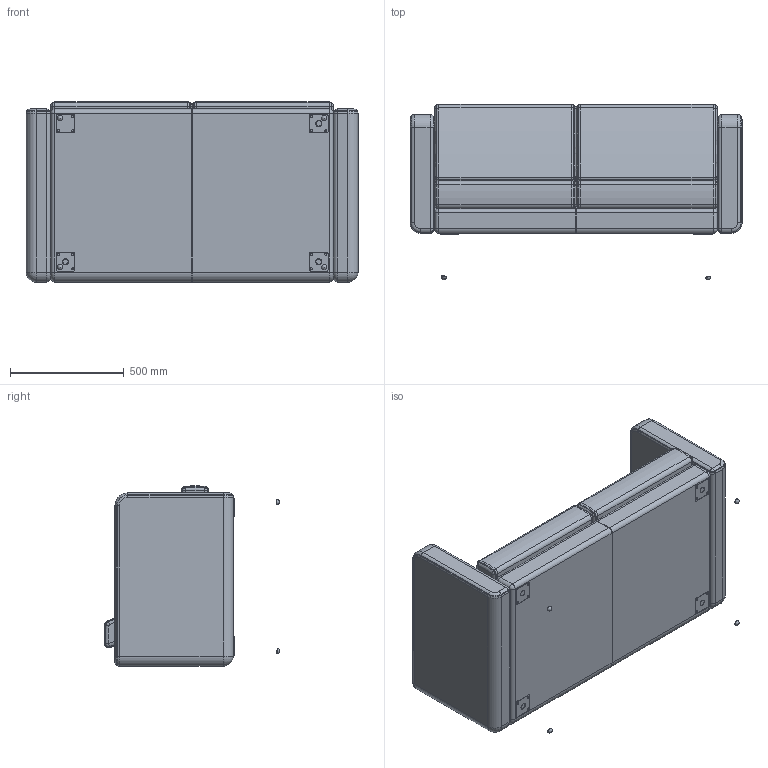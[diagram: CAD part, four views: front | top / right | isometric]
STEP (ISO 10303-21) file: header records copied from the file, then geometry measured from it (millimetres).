
FILE_DESCRIPTION(/* description */ (''),/* implementation_level */ '2;1');
FILE_NAME(/* name */ '9112.step',/* time_stamp */ '2026-07-29T13:58:26-07:00',/* author */ (''),/* organization */ (''),/* preprocessor_version */ 'ST-DEVELOPER v20.1',/* originating_system */ 'Autodesk Translation Framework v15.8.0.0',/* authorisation */ '');
FILE_SCHEMA (('AUTOMOTIVE_DESIGN { 1 0 10303 214 3 1 1 }'));
Length unit declared in the file: inch
Products named in the file (1): 2026-06-05-14-04-39-452
Bounding box: 1460.5 x 773.05 x 793.38 mm (x, y, z)
Volume: 410580218.8 mm3; surface area: 10628607.4 mm2
Topology: 32 solids, 32 shells, 634 faces, 1360 edges, 782 vertices
Faces by surface type: cylinder 228, torus 190, plane 122, sphere 54, bspline 32, cone 8
Full cylindrical faces by diameter (mm): 9.525 x12
Entity records: 18410 total; most frequent: CARTESIAN_POINT 4247, DIRECTION 3348, ORIENTED_EDGE 2704, AXIS2_PLACEMENT_3D 1457, EDGE_CURVE 1352, CIRCLE 818, VERTEX_POINT 782, EDGE_LOOP 666
